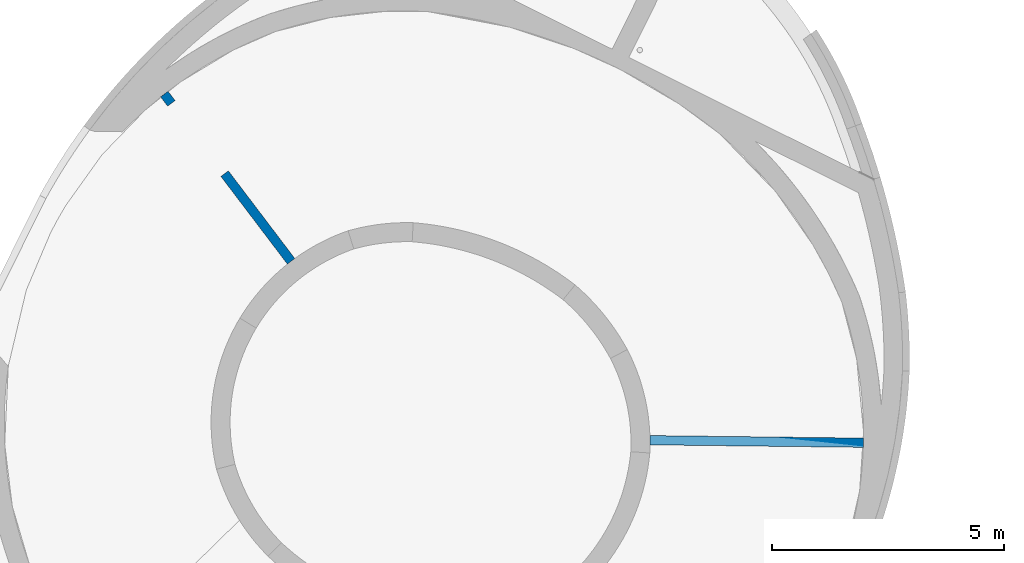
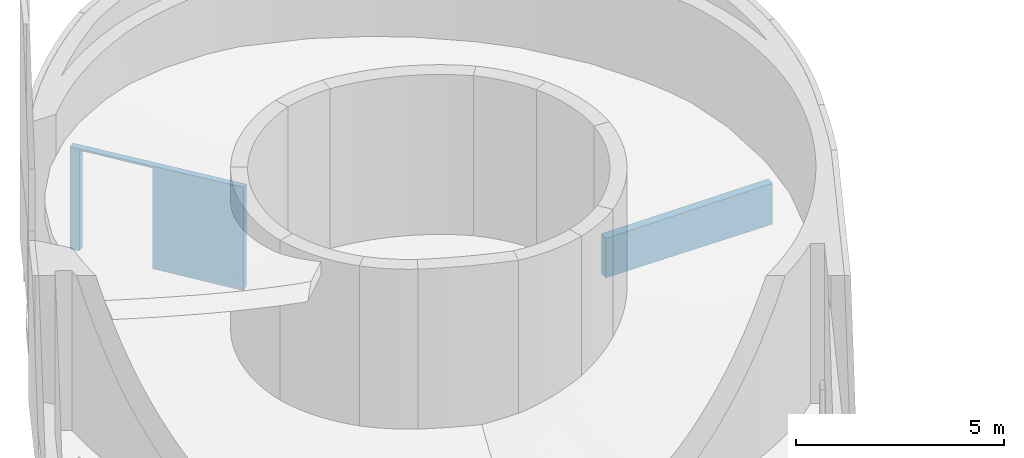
# One storey, part 23 of 91: 2 walls.
"""IFC2X3 building model written with IfcOpenShell, lengths in metres."""

from ifc_helpers import new_model, entity, si_unit, converted_unit, derived_unit, direction, frame, origin, place, context, subcontext, project, spatial, faceted_brep, material, layer, layer_set, type_object, element, save


model = new_model("IFC2X3")

# Units and contexts
model_context = context("Model", 3, precision=1e-05, world=origin(), true_north=direction((0.894925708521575, 0.446215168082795)))
context_of_model = context(None, 3, precision=1e-05, world=origin(), true_north=direction((0.894925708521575, 0.446215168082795)))
body_context = subcontext(model_context, "Body", "Model", "MODEL_VIEW")
ifc_project = project(units=[si_unit("LENGTHUNIT", "METRE"), si_unit("AREAUNIT", "SQUARE_METRE"), si_unit("VOLUMEUNIT", "CUBIC_METRE"), converted_unit("PLANEANGLEUNIT", "DEGREE", entity("IfcRatioMeasure", 0.0174532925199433), si_unit("PLANEANGLEUNIT", "RADIAN"), dimensions=[0, 0, 0, 0, 0, 0, 0]), si_unit("MASSUNIT", "GRAM", prefix="KILO"), si_unit("TIMEUNIT", "SECOND"), si_unit("FREQUENCYUNIT", "HERTZ"), si_unit("THERMODYNAMICTEMPERATUREUNIT", "DEGREE_CELSIUS"), derived_unit("THERMALTRANSMITTANCEUNIT", [(si_unit("MASSUNIT", "GRAM", prefix="KILO"), 1), (si_unit("THERMODYNAMICTEMPERATUREUNIT", "KELVIN"), -1), (si_unit("TIMEUNIT", "SECOND"), -3)]), derived_unit("VOLUMETRICFLOWRATEUNIT", [(si_unit("LENGTHUNIT", "METRE"), 3), (si_unit("TIMEUNIT", "SECOND"), -1)]), si_unit("ELECTRICCURRENTUNIT", "AMPERE"), si_unit("ELECTRICVOLTAGEUNIT", "VOLT"), si_unit("POWERUNIT", "WATT"), si_unit("FORCEUNIT", "NEWTON", prefix="KILO"), si_unit("ILLUMINANCEUNIT", "LUX"), si_unit("LUMINOUSFLUXUNIT", "LUMEN"), si_unit("LUMINOUSINTENSITYUNIT", "CANDELA"), si_unit("PRESSUREUNIT", "PASCAL")], contexts=[model_context, context_of_model])

# Site, building, storey
site_placement = place(None, frame((218.228324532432, 584.720189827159, 0.0), z_axis=(0.0, 0.0, 1.0), x_axis=(0.446215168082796, 0.894925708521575, 0.0)))
site = spatial("IfcSite", under=ifc_project, at=site_placement, Name="Default", CompositionType="ELEMENT")
building_placement = place(site_placement, origin())
building = spatial("IfcBuilding", under=site, at=building_placement, CompositionType="ELEMENT")
storey_placement = place(building_placement, origin())
storey = spatial("IfcBuildingStorey", under=building, at=storey_placement, Name="0 - Piano Terra", CompositionType="ELEMENT", Elevation=0.0)

# Walls
ifc_material = material(Name="Sabbia e Calcestruzzo")
ifc_layer = layer(ifc_material, 0.2)
ifc_layer_set = layer_set([ifc_layer], Name="Muro di base:Blocchetti - 20 cm")
wall_type = type_object("IfcWallType", Name="Muro di base:Blocchetti - 20 cm", PredefinedType="STANDARD", material=ifc_layer_set)
wall_1_placement = place(storey_placement, frame((75.0809993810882, 4.84869057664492, 0.0), z_axis=(0.0, 0.0, 1.0), x_axis=(-0.44350980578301, -0.896269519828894, 0.0)))
element("IfcWall", 1, at=wall_1_placement, inside=storey, type_object=wall_type, Name="Muro di base:Blocchetti - 20 cm", ObjectType="Muro di base:Blocchetti - 20 cm", context=body_context, shape_type="Brep", body=[
    faceted_brep([(4.52126641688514, -0.0999999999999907, 0.0), (2.1516637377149, -0.0999999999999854, 0.0), (2.1516637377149, 0.100000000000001, 0.0), (4.52100458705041, 0.100000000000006, 0.0), (4.51999981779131, -1.4867799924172e-06, 0.0), (0.00399759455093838, -0.0999999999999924, 0.0), (0.0, -0.0999999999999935, 0.0), (0.0, 0.0999999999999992, 0.0), (0.000446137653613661, 0.100000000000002, 0.0), (0.251663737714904, 0.100000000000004, 0.0), (0.251663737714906, -0.0999999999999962, 0.0), (0.0, -0.0999999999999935, 1.03), (0.2516637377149, -0.0999999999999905, 2.95), (2.1516637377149, -0.0999999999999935, 2.95), (4.52126641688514, -0.0999999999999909, 0.579244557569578), (4.52126641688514, -0.0999999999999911, 1.51715107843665), (4.52126641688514, -0.0999999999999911, 2.45505759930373), (4.52126641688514, -0.0999999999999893, 3.03430215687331), (4.06955011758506, -0.0999999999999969, 3.02948879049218), (3.61782891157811, -0.0999999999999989, 3.02508339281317), (3.16610492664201, -0.0999999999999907, 3.02099175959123), (2.71437868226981, -0.0999999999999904, 3.01714661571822), (2.26265086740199, -0.0999999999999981, 3.01349864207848), (1.81092186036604, -0.0999999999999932, 3.01001085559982), (1.3591918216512, -0.0999999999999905, 3.006654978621), (0.907461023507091, -0.0999999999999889, 3.00340902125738), (0.455729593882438, -0.0999999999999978, 3.00025562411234), (0.00399759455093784, -0.099999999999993, 2.99718090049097), (0.00399759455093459, -0.100000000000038, 2.17075317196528), (0.00399759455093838, -0.0999999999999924, 1.03), (2.51186399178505, 0.100000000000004, 2.98895576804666), (3.01414840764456, 0.100000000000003, 2.99100274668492), (3.51643324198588, 0.100000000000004, 2.99294342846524), (4.01871856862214, 0.100000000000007, 2.99474592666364), (4.52100458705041, 0.100000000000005, 2.996364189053), (4.52100458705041, 0.100000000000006, 1.83787541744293), (4.52100458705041, 0.100000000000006, 1.15848900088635), (2.15166373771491, 0.100000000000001, 2.95), (0.251663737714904, 0.0999999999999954, 2.95), (0.0, 0.0999999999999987, 1.03), (0.000446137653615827, 0.100000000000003, 1.03), (0.000446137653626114, 0.0999999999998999, 2.15131877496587), (0.000446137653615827, 0.100000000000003, 2.97774650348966), (0.502729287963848, 0.10000000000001, 2.98008005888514), (1.00501262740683, 0.0999999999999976, 2.98237636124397), (1.50729615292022, 0.100000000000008, 2.98462795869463), (2.00957994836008, 0.0999999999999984, 2.98682527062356), (4.51999870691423, 0.0106050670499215, 2.2618460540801), (4.51999981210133, 0.0115230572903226, 0.747424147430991), (4.52008236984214, 0.0333348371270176, 3.00901026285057), (4.51999604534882, 0.005678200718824, 1.49818209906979), (4.52016965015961, -0.0333370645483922, 3.02165625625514), (0.00166391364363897, -9.90772059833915e-06, 1.03), (0.00231782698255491, -0.0333426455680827, 2.99070299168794), (0.00113398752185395, 0.0333252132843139, 2.98422485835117), (0.00167557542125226, -0.000665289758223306, 1.81945425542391)], [[[0, 1, 2, 3, 4]], [[5, 6, 7, 8, 9, 10]], [[11, 6, 5, 10, 12, 13, 1, 0, 14, 15, 16, 17, 18, 19, 20, 21, 22, 23, 24, 25, 26, 27, 28, 29]], [[30, 31, 32, 33, 34, 35, 36, 3, 2, 37, 38, 9, 8, 7, 39, 40, 41, 42, 43, 44, 45, 46]], [[6, 11, 39, 7]], [[14, 0, 4]], [[16, 15, 47]], [[15, 14, 48]], [[47, 35, 34]], [[47, 34, 49]], [[50, 36, 35]], [[47, 49, 51]], [[48, 4, 3]], [[15, 48, 50]], [[50, 35, 47]], [[48, 36, 50]], [[17, 16, 51]], [[50, 47, 15]], [[16, 47, 51]], [[36, 48, 3]], [[4, 48, 14]], [[13, 37, 2, 1]], [[10, 9, 38, 12]], [[11, 29, 52, 40, 39]], [[18, 17, 51]], [[19, 18, 51]], [[21, 20, 31]], [[19, 32, 20]], [[22, 21, 30]], [[46, 23, 22]], [[45, 24, 23]], [[43, 26, 25]], [[53, 27, 26]], [[25, 24, 44]], [[49, 19, 51]], [[31, 30, 21]], [[20, 32, 31]], [[30, 46, 22]], [[33, 32, 49]], [[34, 33, 49]], [[54, 43, 42]], [[43, 54, 53]], [[44, 24, 45]], [[43, 53, 26]], [[43, 25, 44]], [[46, 45, 23]], [[32, 19, 49]], [[12, 38, 37, 13]], [[54, 55, 53]], [[41, 55, 54]], [[29, 55, 52]], [[52, 55, 40]], [[54, 42, 41]], [[28, 55, 29]], [[55, 28, 53]], [[55, 41, 40]], [[28, 27, 53]]]),
])
wall_2_placement = place(storey_placement, frame((75.0787422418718, -11.9757385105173, 0.0), z_axis=(0.0, 0.0, 1.0), x_axis=(-0.435615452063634, 0.900132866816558, 0.0)))
element("IfcWall", 2, at=wall_2_placement, inside=storey, type_object=wall_type, Name="Muro di base:Blocchetti - 20 cm", ObjectType="Muro di base:Blocchetti - 20 cm", context=body_context, shape_type="Brep", body=[
    faceted_brep([(0.0, -0.100000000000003, 0.0), (4.59864096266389, -0.100000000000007, 0.0), (4.59864096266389, -0.100000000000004, 1.18052736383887), (4.08768855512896, -0.0999999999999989, 1.18531052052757), (3.57673183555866, -0.100000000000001, 1.18966950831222), (3.06577310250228, -0.100000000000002, 1.19374937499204), (2.55481279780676, -0.100000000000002, 1.19763576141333), (2.04385137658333, -0.100000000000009, 1.20138250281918), (1.53288924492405, -0.100000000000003, 1.20502514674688), (1.02192660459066, -0.100000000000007, 1.20858811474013), (0.510963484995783, -0.100000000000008, 1.21208874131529), (0.0, -0.0999999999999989, 1.21553967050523), (4.59350073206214, 0.0999999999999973, 1.15364460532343), (4.59350073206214, 0.0999999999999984, 0.0), (0.0, 0.0999999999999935, 0.0), (0.0, 0.0999999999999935, 1.20048718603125), (0.459360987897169, 0.0999999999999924, 1.19689160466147), (0.918720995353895, 0.0999999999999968, 1.19318823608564), (1.37808002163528, 0.0999999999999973, 1.18935302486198), (1.83743789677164, 0.0999999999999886, 1.18535417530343), (2.29679395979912, 0.100000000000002, 1.18114876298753), (2.7561475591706, 0.0999999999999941, 1.17667738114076), (3.21549824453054, 0.0999999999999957, 1.17185536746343), (3.67484465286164, 0.0999999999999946, 1.16655775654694), (4.13418412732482, 0.100000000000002, 1.16059194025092), (4.5949297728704, -2.93269301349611e-05, 0.0), (0.0, -0.0333338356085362, 1.21051867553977), (0.0, 0.0333327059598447, 1.20550111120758), (4.59419980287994, 0.0333092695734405, 1.16260420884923), (4.59591334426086, -0.033362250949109, 1.17156524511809)], [[[0, 1, 2, 3, 4, 5, 6, 7, 8, 9, 10, 11]], [[12, 13, 14, 15, 16, 17, 18, 19, 20, 21, 22, 23, 24]], [[1, 0, 14, 13, 25]], [[0, 11, 26, 27, 15, 14]], [[28, 13, 12]], [[25, 13, 28]], [[29, 1, 25]], [[1, 29, 2]], [[28, 29, 25]], [[8, 7, 18]], [[7, 6, 19]], [[22, 4, 3]], [[20, 6, 5]], [[21, 5, 4]], [[26, 11, 10]], [[16, 27, 10]], [[27, 26, 10]], [[8, 17, 9]], [[9, 16, 10]], [[29, 3, 2]], [[29, 23, 22]], [[23, 29, 28]], [[22, 21, 4]], [[28, 12, 24]], [[28, 24, 23]], [[15, 27, 16]], [[16, 9, 17]], [[20, 5, 21]], [[18, 7, 19]], [[19, 6, 20]], [[8, 18, 17]], [[22, 3, 29]]]),
])

save(model, "model.ifc")
